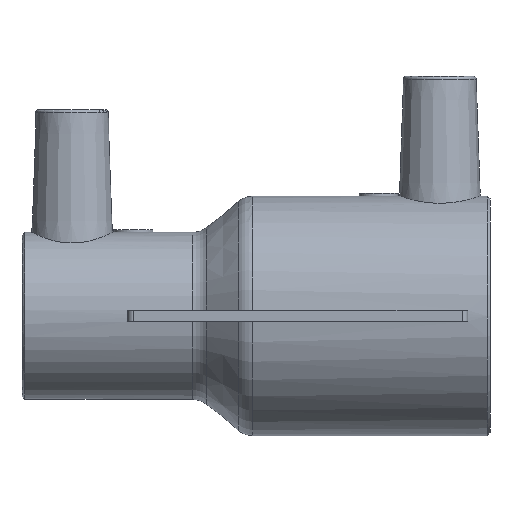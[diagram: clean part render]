
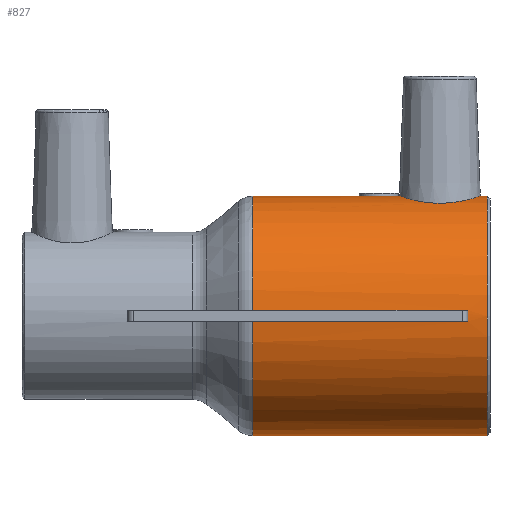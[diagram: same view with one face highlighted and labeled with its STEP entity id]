
A CAD part, front view. The second image highlights one B-rep face of the part: STEP entity #827.
In plain terms, the highlighted cylindrical face has radius 21.5 mm (diameter 43 mm), a full revolution.
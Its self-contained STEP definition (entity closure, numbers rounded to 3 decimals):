
#60=LINE('',#1322,#110);
#61=LINE('',#1327,#111);
#110=VECTOR('',#1014,1000.);
#111=VECTOR('',#1017,1000.);
#160=CIRCLE('',#899,21.5);
#161=CIRCLE('',#900,21.5);
#162=CIRCLE('',#901,21.5);
#212=ORIENTED_EDGE('',*,*,#436,.F.);
#213=ORIENTED_EDGE('',*,*,#437,.T.);
#214=ORIENTED_EDGE('',*,*,#438,.T.);
#215=ORIENTED_EDGE('',*,*,#439,.F.);
#216=ORIENTED_EDGE('',*,*,#440,.T.);
#217=ORIENTED_EDGE('',*,*,#441,.T.);
#218=ORIENTED_EDGE('',*,*,#442,.T.);
#436=EDGE_CURVE('',#548,#548,#629,.T.);
#437=EDGE_CURVE('',#549,#549,#160,.T.);
#438=EDGE_CURVE('',#550,#550,#630,.T.);
#439=EDGE_CURVE('',#551,#552,#60,.T.);
#440=EDGE_CURVE('',#551,#553,#161,.T.);
#441=EDGE_CURVE('',#553,#554,#61,.T.);
#442=EDGE_CURVE('',#554,#552,#162,.T.);
#548=VERTEX_POINT('',#1301);
#549=VERTEX_POINT('',#1303);
#550=VERTEX_POINT('',#1321);
#551=VERTEX_POINT('',#1323);
#552=VERTEX_POINT('',#1324);
#553=VERTEX_POINT('',#1326);
#554=VERTEX_POINT('',#1328);
#629=B_SPLINE_CURVE_WITH_KNOTS('',3,(#1282,#1283,#1284,#1285,#1286,#1287,
#1288,#1289,#1290,#1291,#1292,#1293,#1294,#1295,#1296,#1297,#1298,#1299,
#1300),.UNSPECIFIED.,.T.,.F.,(1,1,1,1,1,1,1,1,1,1,1,1,1,1,1,1,1,1,1,1,1,
1,1),(-0.009,-0.006,-0.003,0.,
0.003,0.006,0.009,0.011,
0.014,0.017,0.02,0.023,
0.026,0.029,0.032,0.034,
0.037,0.04,0.043,0.046,
0.049,0.052,0.054),.UNSPECIFIED.);
#630=B_SPLINE_CURVE_WITH_KNOTS('',3,(#1304,#1305,#1306,#1307,#1308,#1309,
#1310,#1311,#1312,#1313,#1314,#1315,#1316,#1317,#1318,#1319,#1320),
 .UNSPECIFIED.,.T.,.F.,(1,1,1,1,1,1,1,1,1,1,1,1,1,1,1,1,1,1,1,1,1),(-0.004,
-0.003,-0.001,0.,0.001,0.003,
0.006,0.009,0.01,0.011,
0.013,0.014,0.016,0.017,
0.019,0.02,0.021,0.023,
0.024,0.026,0.028),.UNSPECIFIED.);
#639=EDGE_LOOP('',(#212));
#640=EDGE_LOOP('',(#213));
#641=EDGE_LOOP('',(#214));
#642=EDGE_LOOP('',(#215,#216,#217,#218));
#724=FACE_BOUND('',#639,.T.);
#725=FACE_BOUND('',#640,.T.);
#726=FACE_BOUND('',#641,.T.);
#727=FACE_BOUND('',#642,.T.);
#809=CYLINDRICAL_SURFACE('',#898,21.5);
#827=ADVANCED_FACE('',(#724,#725,#726,#727),#809,.T.);
#898=AXIS2_PLACEMENT_3D('',#1281,#1010,#1011);
#899=AXIS2_PLACEMENT_3D('',#1302,#1012,#1013);
#900=AXIS2_PLACEMENT_3D('',#1325,#1015,#1016);
#901=AXIS2_PLACEMENT_3D('',#1329,#1018,#1019);
#1010=DIRECTION('',(-1.,0.,0.));
#1011=DIRECTION('',(0.,0.,1.));
#1012=DIRECTION('',(-1.,0.,0.));
#1013=DIRECTION('',(0.,0.,1.));
#1014=DIRECTION('',(-1.,0.,0.));
#1015=DIRECTION('',(1.,0.,0.));
#1016=DIRECTION('',(0.,1.,0.));
#1017=DIRECTION('',(-1.,0.,0.));
#1018=DIRECTION('',(1.,0.,0.));
#1019=DIRECTION('',(0.,0.,-1.));
#1281=CARTESIAN_POINT('',(-60.,0.,0.));
#1282=CARTESIAN_POINT('',(26.314,-3.278,21.304));
#1283=CARTESIAN_POINT('',(28.051,-5.583,20.794));
#1284=CARTESIAN_POINT('',(30.541,-7.066,20.313));
#1285=CARTESIAN_POINT('',(33.447,-7.477,20.156));
#1286=CARTESIAN_POINT('',(36.274,-6.721,20.436));
#1287=CARTESIAN_POINT('',(38.563,-4.963,20.959));
#1288=CARTESIAN_POINT('',(40.025,-2.464,21.419));
#1289=CARTESIAN_POINT('',(40.429,0.447,21.563));
#1290=CARTESIAN_POINT('',(39.686,3.279,21.304));
#1291=CARTESIAN_POINT('',(37.949,5.583,20.794));
#1292=CARTESIAN_POINT('',(35.466,7.063,20.314));
#1293=CARTESIAN_POINT('',(32.56,7.478,20.156));
#1294=CARTESIAN_POINT('',(29.722,6.72,20.437));
#1295=CARTESIAN_POINT('',(27.434,4.96,20.959));
#1296=CARTESIAN_POINT('',(25.975,2.461,21.419));
#1297=CARTESIAN_POINT('',(25.571,-0.443,21.563));
#1298=CARTESIAN_POINT('',(26.314,-3.278,21.304));
#1299=CARTESIAN_POINT('',(28.051,-5.583,20.794));
#1300=CARTESIAN_POINT('',(30.541,-7.066,20.313));
#1301=CARTESIAN_POINT('',(28.176,-5.446,20.799));
#1302=CARTESIAN_POINT('',(41.5,0.,0.));
#1303=CARTESIAN_POINT('',(41.5,0.,21.5));
#1304=CARTESIAN_POINT('',(25.329,9.322,19.39));
#1305=CARTESIAN_POINT('',(25.585,8.005,19.972));
#1306=CARTESIAN_POINT('',(25.329,6.658,20.459));
#1307=CARTESIAN_POINT('',(24.298,5.069,20.916));
#1308=CARTESIAN_POINT('',(21.902,4.082,21.105));
#1309=CARTESIAN_POINT('',(19.555,5.19,20.888));
#1310=CARTESIAN_POINT('',(18.608,6.826,20.404));
#1311=CARTESIAN_POINT('',(18.42,8.179,19.901));
#1312=CARTESIAN_POINT('',(18.735,9.472,19.317));
#1313=CARTESIAN_POINT('',(19.495,10.563,18.737));
#1314=CARTESIAN_POINT('',(20.644,11.329,18.277));
#1315=CARTESIAN_POINT('',(22.08,11.601,18.101));
#1316=CARTESIAN_POINT('',(23.507,11.263,18.318));
#1317=CARTESIAN_POINT('',(24.619,10.446,18.803));
#1318=CARTESIAN_POINT('',(25.329,9.322,19.39));
#1319=CARTESIAN_POINT('',(25.585,8.005,19.972));
#1320=CARTESIAN_POINT('',(25.329,6.658,20.459));
#1321=CARTESIAN_POINT('',(25.5,8.,19.956));
#1322=CARTESIAN_POINT('',(-60.,-21.477,1.));
#1323=CARTESIAN_POINT('',(38.,-21.477,1.));
#1324=CARTESIAN_POINT('',(-0.58,-21.477,1.));
#1325=CARTESIAN_POINT('',(38.,0.,0.));
#1326=CARTESIAN_POINT('',(38.,-21.477,-1.));
#1327=CARTESIAN_POINT('',(-60.,-21.477,-1.));
#1328=CARTESIAN_POINT('',(-0.58,-21.477,-1.));
#1329=CARTESIAN_POINT('',(-0.58,0.,0.));
